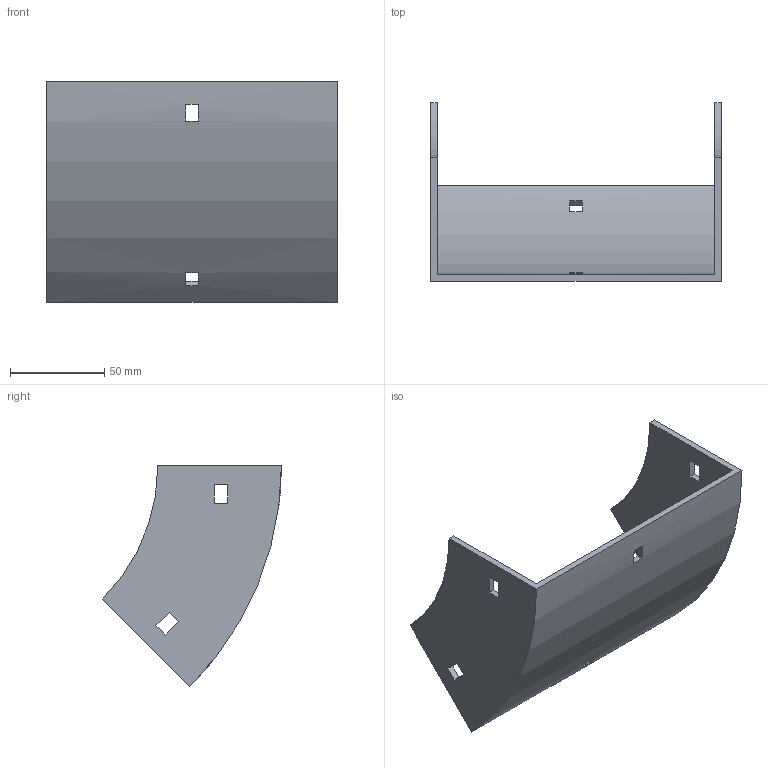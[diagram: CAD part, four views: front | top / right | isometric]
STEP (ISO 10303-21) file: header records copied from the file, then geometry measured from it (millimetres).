
FILE_DESCRIPTION (( 'STEP AP214' ), '1' );
FILE_NAME ('31B1H150.step', '2025-02-21T09:47:08', ( '' ), ( '' ), 'SwSTEP 2.0', 'SolidWorks 2023', '' );
FILE_SCHEMA (( 'AUTOMOTIVE_DESIGN' ));
Length unit declared in the file: millimetre
Products named in the file (1): 31B1H150
Bounding box: 154 x 94.79 x 117.03 mm (x, y, z)
Volume: 112581.6 mm3; surface area: 67531.9 mm2
Topology: 1 solids, 1 shells, 34 faces, 96 edges, 64 vertices
Faces by surface type: plane 30, cylinder 4
Entity records: 1143 total; most frequent: CARTESIAN_POINT 195, ORIENTED_EDGE 192, DIRECTION 182, EDGE_CURVE 96, LINE 80, VECTOR 80, VERTEX_POINT 64, AXIS2_PLACEMENT_3D 51
